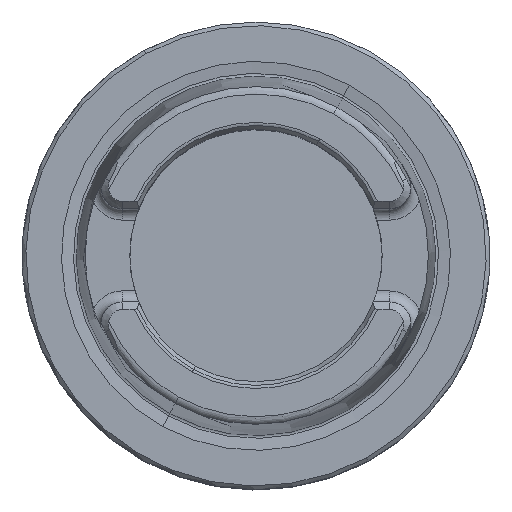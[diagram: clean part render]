
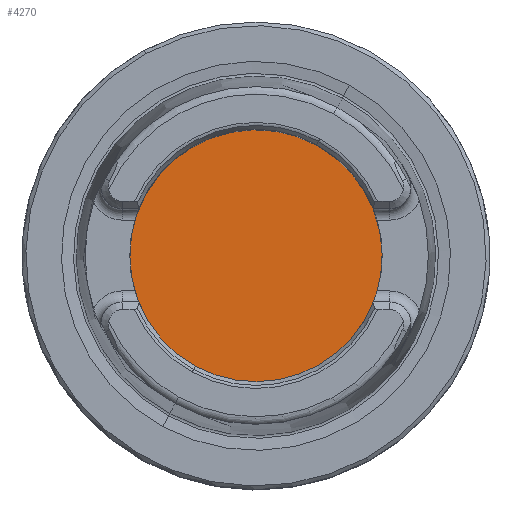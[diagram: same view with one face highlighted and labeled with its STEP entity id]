
A CAD part, top view. The second image highlights one B-rep face of the part: STEP entity #4270.
In plain terms, the highlighted planar face has unit normal (0, 0, 1).
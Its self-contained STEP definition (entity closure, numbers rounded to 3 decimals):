
#3906=AXIS2_PLACEMENT_3D('Circle Axis2P3D',#3904,#3905,$) ;
#4131=AXIS2_PLACEMENT_3D('Circle Axis2P3D',#4129,#4130,$) ;
#4264=AXIS2_PLACEMENT_3D('Plane Axis2P3D',#4261,#4262,#4263) ;
#3901=CARTESIAN_POINT('Vertex',(-8.15,-14.919,-10.)) ;
#3904=CARTESIAN_POINT('Axis2P3D Location',(0.,0.,-10.)) ;
#3908=CARTESIAN_POINT('Vertex',(8.15,14.919,-10.)) ;
#4129=CARTESIAN_POINT('Axis2P3D Location',(0.,0.,-10.)) ;
#4261=CARTESIAN_POINT('Axis2P3D Location',(0.,-15.75,-10.)) ;
#3905=DIRECTION('Axis2P3D Direction',(0.,0.,-1.)) ;
#4130=DIRECTION('Axis2P3D Direction',(0.,0.,-1.)) ;
#4262=DIRECTION('Axis2P3D Direction',(0.,0.,-1.)) ;
#4263=DIRECTION('Axis2P3D XDirection',(-1.,0.,0.)) ;
#4267=ORIENTED_EDGE('',*,*,#3910,.F.) ;
#4268=ORIENTED_EDGE('',*,*,#4133,.F.) ;
#4270=ADVANCED_FACE('NO_CUT',(#4269),#4265,.F.) ;
#3907=CIRCLE('generated circle',#3906,17.) ;
#4132=CIRCLE('generated circle',#4131,17.) ;
#3910=EDGE_CURVE('',#3902,#3909,#3907,.T.) ;
#4133=EDGE_CURVE('',#3909,#3902,#4132,.T.) ;
#4266=EDGE_LOOP('',(#4267,#4268)) ;
#4269=FACE_OUTER_BOUND('',#4266,.T.) ;
#4265=PLANE('',#4264) ;
#3902=VERTEX_POINT('',#3901) ;
#3909=VERTEX_POINT('',#3908) ;
